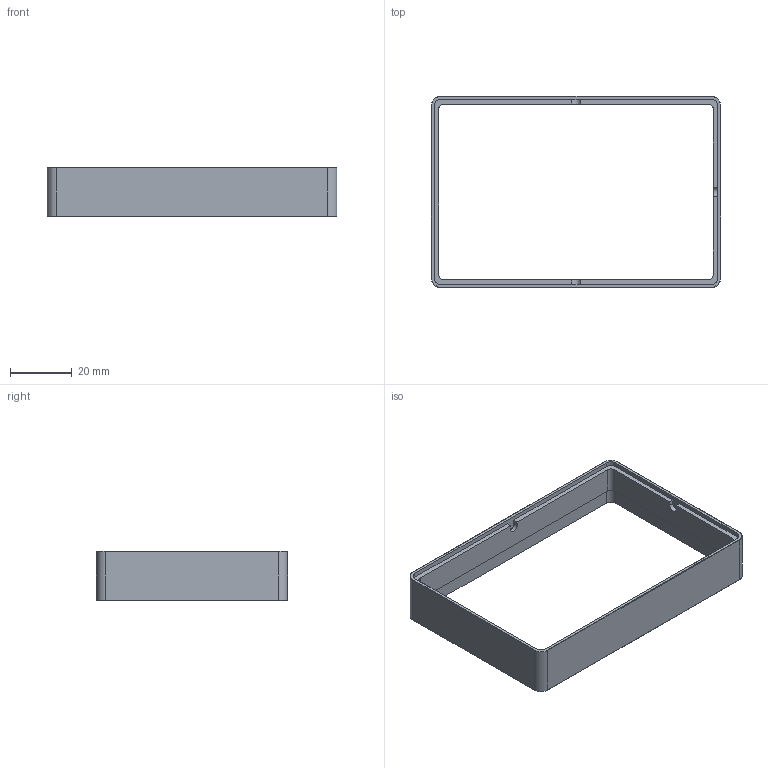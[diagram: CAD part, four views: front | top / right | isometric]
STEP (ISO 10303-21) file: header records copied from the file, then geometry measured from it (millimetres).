
FILE_DESCRIPTION(/* description */ (''),/* implementation_level */ '2;1');
FILE_NAME(/* name */ 'C:/Users/ruda/Downloads/SC01 Box v9 - chassis.step',/* time_stamp */ '2022-10-18T13:58:55+02:00',/* author */ (''),/* organization */ (''),/* preprocessor_version */ 'ST-DEVELOPER v19',/* originating_system */ 'Autodesk Translation Framework v11.7.0.108',/* authorisation */ '');
FILE_SCHEMA (('AUTOMOTIVE_DESIGN { 1 0 10303 214 3 1 1 }'));
Length unit declared in the file: millimetre
Products named in the file (2): SC01 Box; Chassis
Assembly tree (1 placements, depth 2):
  SC01 Box
    Chassis
Bounding box: 94.1 x 62.1 x 16 mm (x, y, z)
Volume: 8615.5 mm3; surface area: 11119.8 mm2
Topology: 1 solids, 1 shells, 63 faces, 164 edges, 104 vertices
Faces by surface type: plane 36, cylinder 19, cone 8
Entity records: 1987 total; most frequent: DIRECTION 342, CARTESIAN_POINT 334, ORIENTED_EDGE 328, EDGE_CURVE 164, LINE 118, VECTOR 118, AXIS2_PLACEMENT_3D 112, VERTEX_POINT 104
